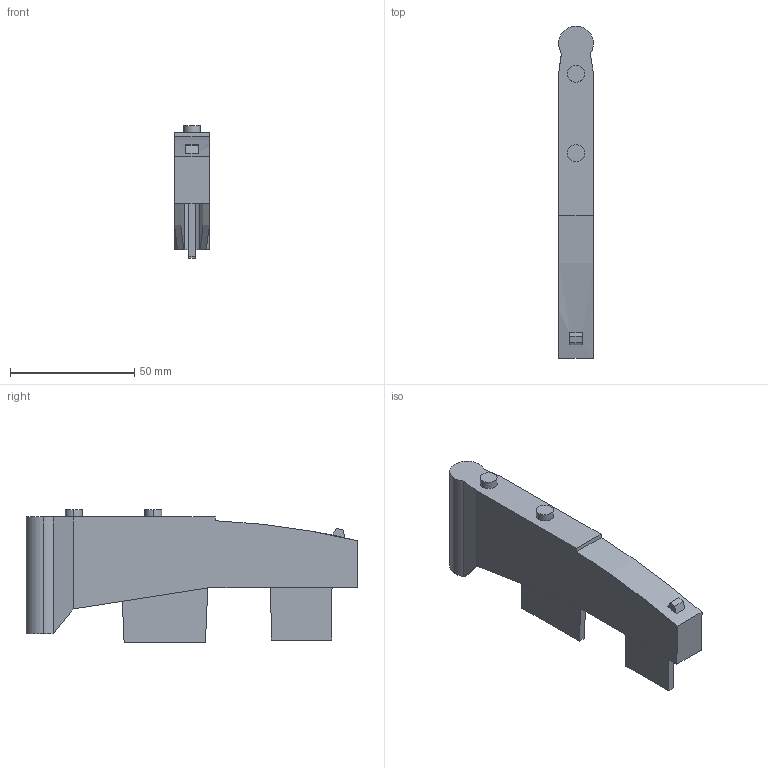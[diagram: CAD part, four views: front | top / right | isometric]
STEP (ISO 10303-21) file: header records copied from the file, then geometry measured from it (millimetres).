
FILE_DESCRIPTION (( 'STEP AP214' ), '1' );
FILE_NAME ('Magic Optima Profil-Halter Duowing.STEP', '2010-08-17T12:25:42', ( 'grass' ), ( '' ), 'SwSTEP 2.0', 'SolidWorks 2010', '' );
FILE_SCHEMA (( 'AUTOMOTIVE_DESIGN' ));
Length unit declared in the file: millimetre
Products named in the file (1): Magic Optima Profil-Halter Duowing
Bounding box: 14 x 133.54 x 53.5 mm (x, y, z)
Volume: 32122.8 mm3; surface area: 26231.2 mm2
Topology: 1 solids, 1 shells, 50 faces, 130 edges, 86 vertices
Faces by surface type: plane 38, cylinder 12
Entity records: 1562 total; most frequent: CARTESIAN_POINT 270, DIRECTION 261, ORIENTED_EDGE 260, EDGE_CURVE 130, LINE 99, VECTOR 99, VERTEX_POINT 86, AXIS2_PLACEMENT_3D 81
